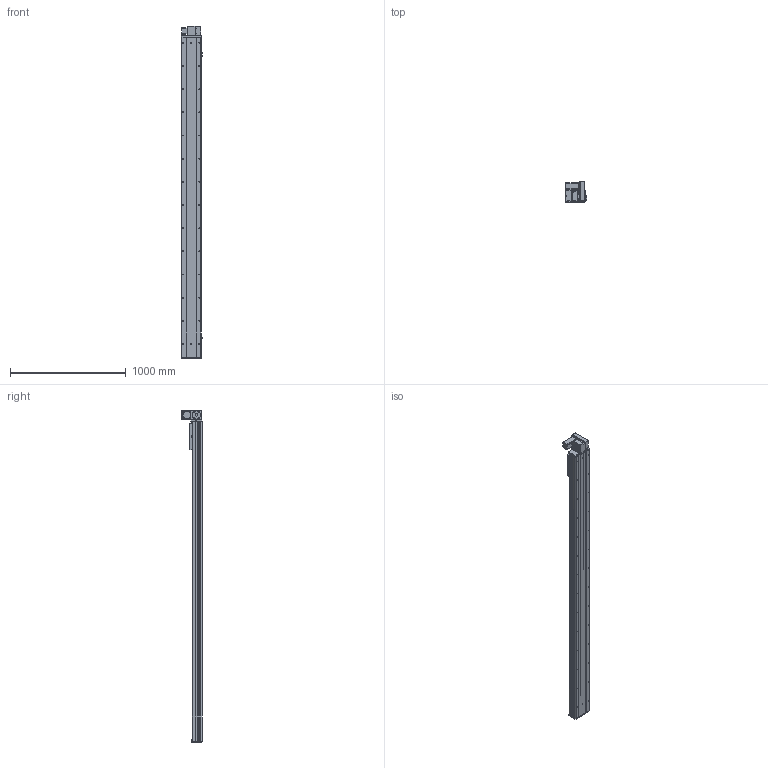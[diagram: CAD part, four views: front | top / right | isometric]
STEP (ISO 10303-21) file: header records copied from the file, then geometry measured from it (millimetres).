
FILE_DESCRIPTION (( 'STEP AP203' ), '1' );
FILE_NAME ('Y170CB-D105-S2450-UR-P400W.STEP', '2020-02-20T05:46:21', ( '微软用户' ), ( '微软中国' ), 'SwSTEP 2.0', 'SolidWorks 2017', '' );
FILE_SCHEMA (( 'CONFIG_CONTROL_DESIGN' ));
Length unit declared in the file: millimetre
Products named in the file (18): 70CB-詩湍--; san松下电机400不带刹车----; Y100-135俋离換覜ん--; 70CB-掛极-; Y170CB-陔俋离換覜結え---; --70CB --喘謫眊楊擘啣-; Y1埴倛裔; 70CB-耜裔啣-; 17B-耜蚾蟀諉啣----; 70C--詩湍揤踡え-; 00B-俋欶BM--163; 70CB--耜裔; 70B喘謫眊----; 70C-雄赽釱-奻-; B-源倛裔啣; Y170CB-D105-S2450-UR-P400W; 0C--雄赽釱俋欶-170; 0B-萇儂楊擘啣
Assembly tree (21 placements, depth 2):
  Y170CB-D105-S2450-UR-P400W
    B-源倛裔啣
    0B-萇儂楊擘啣
    san松下电机400不带刹车----
    70CB-掛极-
    --70CB --喘謫眊楊擘啣-
    70CB-耜裔啣-  x2
    70C--詩湍揤踡え-  x2
    70CB--耜裔
    70C-雄赽釱-奻-
    0C--雄赽釱俋欶-170
    70CB-詩湍--
    Y100-135俋离換覜ん--  x3
    Y170CB-陔俋离換覜結え---
    Y1埴倛裔
    17B-耜蚾蟀諉啣----
    00B-俋欶BM--163
    70B喘謫眊----
Bounding box: 183.5 x 174 x 2866 mm (x, y, z)
Volume: 12249034.8 mm3; surface area: 4422405.7 mm2
Topology: 21 solids, 21 shells, 1063 faces, 2861 edges, 1898 vertices
Faces by surface type: cylinder 577, plane 462, cone 24
Entity records: 34080 total; most frequent: CARTESIAN_POINT 6276, DIRECTION 5546, ORIENTED_EDGE 5204, EDGE_CURVE 2602, AXIS2_PLACEMENT_3D 2048, VERTEX_POINT 1728, VECTOR 1450, LINE 1450
